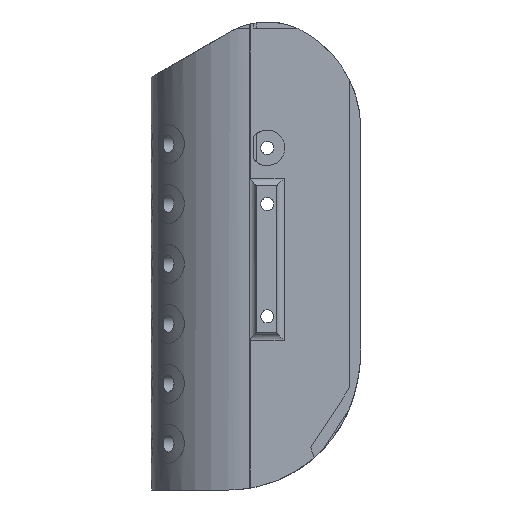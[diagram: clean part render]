
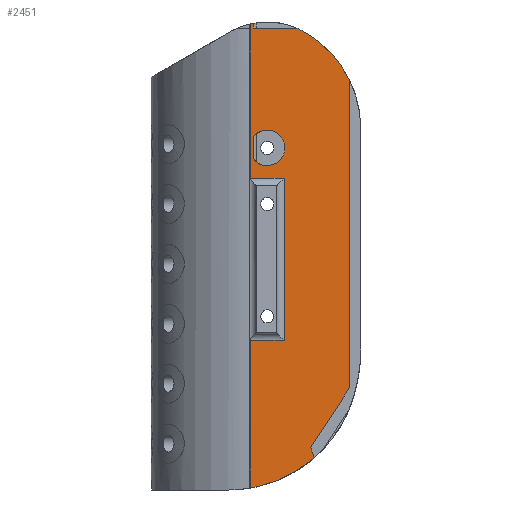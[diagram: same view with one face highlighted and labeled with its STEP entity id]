
A CAD part, left-side view. The second image highlights one B-rep face of the part: STEP entity #2451.
In plain terms, the highlighted planar face has unit normal (-1, 0, 0).
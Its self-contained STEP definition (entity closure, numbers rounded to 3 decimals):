
#27=PLANE('',#2619);
#89=FACE_BOUND('',#659,.T.);
#114=CIRCLE('',#2556,20.);
#116=CIRCLE('',#2558,20.);
#125=CIRCLE('',#2572,30.);
#144=CIRCLE('',#2606,4.74);
#176=LINE('',#5045,#290);
#189=LINE('',#5113,#303);
#191=LINE('',#5146,#305);
#196=LINE('',#5180,#310);
#199=LINE('',#5204,#313);
#201=LINE('',#5210,#315);
#202=LINE('',#5213,#316);
#209=LINE('',#5277,#323);
#210=LINE('',#5278,#324);
#211=LINE('',#5279,#325);
#290=VECTOR('',#2782,10.);
#303=VECTOR('',#2835,10.);
#305=VECTOR('',#2837,10.);
#310=VECTOR('',#2858,10.);
#313=VECTOR('',#2871,10.);
#315=VECTOR('',#2877,10.);
#316=VECTOR('',#2882,10.);
#323=VECTOR('',#2903,10.);
#324=VECTOR('',#2904,10.);
#325=VECTOR('',#2905,10.);
#499=FACE_OUTER_BOUND('',#658,.T.);
#658=EDGE_LOOP('',(#1914,#1915,#1916,#1917,#1918,#1919,#1920,#1921,#1922,
#1923,#1924,#1925,#1926,#1927,#1928));
#659=EDGE_LOOP('',(#1929,#1930));
#882=B_SPLINE_CURVE_WITH_KNOTS('',3,(#5232,#5233,#5234,#5235),
 .UNSPECIFIED.,.F.,.F.,(4,4),(0.469,0.621),
 .UNSPECIFIED.);
#883=B_SPLINE_CURVE_WITH_KNOTS('',3,(#5237,#5238,#5239,#5240,#5241,#5242,
#5243,#5244,#5245,#5246,#5247,#5248,#5249,#5250,#5251,#5252,#5253,#5254,
#5255,#5256,#5257,#5258,#5259,#5260,#5261,#5262,#5263,#5264,#5265,#5266,
#5267),.UNSPECIFIED.,.F.,.F.,(4,3,3,3,3,3,3,3,3,3,4),(1.785,
1.977,2.169,2.361,2.487,2.679,
2.871,3.033,3.225,3.417,3.554),
 .UNSPECIFIED.);
#884=B_SPLINE_CURVE_WITH_KNOTS('',3,(#5269,#5270,#5271,#5272,#5273,#5274,
#5275),.UNSPECIFIED.,.F.,.F.,(4,3,4),(3.342,3.456,
3.623),.UNSPECIFIED.);
#1049=VERTEX_POINT('',#4079);
#1050=VERTEX_POINT('',#4084);
#1053=VERTEX_POINT('',#4093);
#1054=VERTEX_POINT('',#4095);
#1110=VERTEX_POINT('',#5033);
#1114=VERTEX_POINT('',#5043);
#1133=VERTEX_POINT('',#5104);
#1134=VERTEX_POINT('',#5112);
#1137=VERTEX_POINT('',#5131);
#1144=VERTEX_POINT('',#5178);
#1145=VERTEX_POINT('',#5179);
#1149=VERTEX_POINT('',#5203);
#1151=VERTEX_POINT('',#5209);
#1156=VERTEX_POINT('',#5231);
#1157=VERTEX_POINT('',#5236);
#1158=VERTEX_POINT('',#5268);
#1159=VERTEX_POINT('',#5276);
#1339=EDGE_CURVE('',#1049,#1050,#114,.T.);
#1343=EDGE_CURVE('',#1053,#1054,#116,.T.);
#1403=EDGE_CURVE('',#1054,#1110,#125,.T.);
#1409=EDGE_CURVE('',#1114,#1053,#176,.T.);
#1437=EDGE_CURVE('',#1134,#1133,#189,.F.);
#1441=EDGE_CURVE('',#1137,#1049,#191,.T.);
#1451=EDGE_CURVE('',#1144,#1145,#196,.T.);
#1455=EDGE_CURVE('',#1145,#1144,#144,.T.);
#1458=EDGE_CURVE('',#1134,#1149,#199,.T.);
#1461=EDGE_CURVE('',#1149,#1151,#201,.T.);
#1463=EDGE_CURVE('',#1151,#1137,#202,.T.);
#1472=EDGE_CURVE('',#1133,#1156,#882,.F.);
#1473=EDGE_CURVE('',#1157,#1156,#883,.T.);
#1474=EDGE_CURVE('',#1157,#1158,#884,.T.);
#1475=EDGE_CURVE('',#1158,#1159,#209,.F.);
#1476=EDGE_CURVE('',#1159,#1110,#210,.F.);
#1477=EDGE_CURVE('',#1050,#1114,#211,.T.);
#1914=ORIENTED_EDGE('',*,*,#1339,.F.);
#1915=ORIENTED_EDGE('',*,*,#1441,.F.);
#1916=ORIENTED_EDGE('',*,*,#1463,.F.);
#1917=ORIENTED_EDGE('',*,*,#1461,.F.);
#1918=ORIENTED_EDGE('',*,*,#1458,.F.);
#1919=ORIENTED_EDGE('',*,*,#1437,.T.);
#1920=ORIENTED_EDGE('',*,*,#1472,.T.);
#1921=ORIENTED_EDGE('',*,*,#1473,.F.);
#1922=ORIENTED_EDGE('',*,*,#1474,.T.);
#1923=ORIENTED_EDGE('',*,*,#1475,.T.);
#1924=ORIENTED_EDGE('',*,*,#1476,.T.);
#1925=ORIENTED_EDGE('',*,*,#1403,.F.);
#1926=ORIENTED_EDGE('',*,*,#1343,.F.);
#1927=ORIENTED_EDGE('',*,*,#1409,.F.);
#1928=ORIENTED_EDGE('',*,*,#1477,.F.);
#1929=ORIENTED_EDGE('',*,*,#1455,.F.);
#1930=ORIENTED_EDGE('',*,*,#1451,.F.);
#2451=ADVANCED_FACE('',(#499,#89),#27,.F.);
#2556=AXIS2_PLACEMENT_3D('',#4085,#2731,#2732);
#2558=AXIS2_PLACEMENT_3D('',#4096,#2736,#2737);
#2572=AXIS2_PLACEMENT_3D('',#5034,#2771,#2772);
#2606=AXIS2_PLACEMENT_3D('',#5198,#2864,#2865);
#2619=AXIS2_PLACEMENT_3D('',#5230,#2901,#2902);
#2731=DIRECTION('center_axis',(1.,0.,0.));
#2732=DIRECTION('ref_axis',(0.,-0.001,1.));
#2736=DIRECTION('center_axis',(1.,0.,0.));
#2737=DIRECTION('ref_axis',(0.,-0.001,1.));
#2771=DIRECTION('center_axis',(1.,0.,0.));
#2772=DIRECTION('ref_axis',(0.,-0.707,0.707));
#2782=DIRECTION('',(0.,-1.,0.));
#2835=DIRECTION('',(0.,0.,1.));
#2837=DIRECTION('',(0.,0.,1.));
#2858=DIRECTION('',(0.,0.,-1.));
#2864=DIRECTION('center_axis',(-1.,0.,0.));
#2865=DIRECTION('ref_axis',(0.,1.,0.));
#2871=DIRECTION('',(0.,-1.,0.));
#2877=DIRECTION('',(0.,0.,1.));
#2882=DIRECTION('',(0.,1.,0.));
#2901=DIRECTION('center_axis',(1.,0.,0.));
#2902=DIRECTION('ref_axis',(0.,1.,0.));
#2903=DIRECTION('',(0.,0.546,-0.838));
#2904=DIRECTION('',(0.,0.,-1.));
#2905=DIRECTION('',(0.,0.,-1.));
#4079=CARTESIAN_POINT('',(-27.99,1.488,176.135));
#4084=CARTESIAN_POINT('',(-27.99,0.748,176.291));
#4085=CARTESIAN_POINT('Origin',(-27.99,-3.019,156.649));
#4093=CARTESIAN_POINT('',(-27.99,-10.949,175.01));
#4095=CARTESIAN_POINT('',(-27.99,-13.058,173.947));
#4096=CARTESIAN_POINT('Origin',(-27.99,-3.019,156.649));
#5033=CARTESIAN_POINT('',(-27.99,-25.01,161.056));
#5034=CARTESIAN_POINT('Origin',(-27.99,2.,148.));
#5043=CARTESIAN_POINT('',(-27.99,0.748,175.01));
#5045=CARTESIAN_POINT('',(-27.99,0.,175.01));
#5104=CARTESIAN_POINT('',(-27.99,1.488,52.115));
#5112=CARTESIAN_POINT('',(-27.99,1.488,91.572));
#5113=CARTESIAN_POINT('',(-27.99,1.488,0.));
#5131=CARTESIAN_POINT('',(-27.99,1.488,134.869));
#5146=CARTESIAN_POINT('',(-27.99,1.488,0.));
#5178=CARTESIAN_POINT('',(-27.99,0.748,145.901));
#5179=CARTESIAN_POINT('',(-27.99,0.748,140.099));
#5180=CARTESIAN_POINT('',(-27.99,0.748,0.));
#5198=CARTESIAN_POINT('Origin',(-27.99,-3.,143.));
#5203=CARTESIAN_POINT('',(-27.99,-7.541,91.572));
#5204=CARTESIAN_POINT('',(-27.99,-9.77,91.572));
#5209=CARTESIAN_POINT('',(-27.99,-7.541,134.869));
#5210=CARTESIAN_POINT('',(-27.99,-7.541,119.684));
#5213=CARTESIAN_POINT('',(-27.99,-7.,134.869));
#5230=CARTESIAN_POINT('Origin',(-27.99,-14.,106.5));
#5231=CARTESIAN_POINT('',(-27.99,0.,52.405));
#5232=CARTESIAN_POINT('Ctrl Pts',(-27.99,0.,
52.407));
#5233=CARTESIAN_POINT('Ctrl Pts',(-27.99,0.493,52.299));
#5234=CARTESIAN_POINT('Ctrl Pts',(-27.99,0.989,52.203));
#5235=CARTESIAN_POINT('Ctrl Pts',(-27.99,1.487,52.117));
#5236=CARTESIAN_POINT('',(-27.99,-15.601,60.264));
#5237=CARTESIAN_POINT('Ctrl Pts',(-27.99,-15.601,60.264));
#5238=CARTESIAN_POINT('Ctrl Pts',(-27.99,-15.12,59.844));
#5239=CARTESIAN_POINT('Ctrl Pts',(-27.99,-14.628,59.437));
#5240=CARTESIAN_POINT('Ctrl Pts',(-27.99,-14.125,59.044));
#5241=CARTESIAN_POINT('Ctrl Pts',(-27.99,-13.622,58.65));
#5242=CARTESIAN_POINT('Ctrl Pts',(-27.99,-13.108,58.271));
#5243=CARTESIAN_POINT('Ctrl Pts',(-27.99,-12.583,57.905));
#5244=CARTESIAN_POINT('Ctrl Pts',(-27.99,-12.061,57.541));
#5245=CARTESIAN_POINT('Ctrl Pts',(-27.99,-11.529,57.19));
#5246=CARTESIAN_POINT('Ctrl Pts',(-27.99,-10.987,56.855));
#5247=CARTESIAN_POINT('Ctrl Pts',(-27.99,-10.631,56.634));
#5248=CARTESIAN_POINT('Ctrl Pts',(-27.99,-10.27,56.419));
#5249=CARTESIAN_POINT('Ctrl Pts',(-27.99,-9.906,56.211));
#5250=CARTESIAN_POINT('Ctrl Pts',(-27.99,-9.351,55.894));
#5251=CARTESIAN_POINT('Ctrl Pts',(-27.99,-8.787,55.592));
#5252=CARTESIAN_POINT('Ctrl Pts',(-27.99,-8.216,55.306));
#5253=CARTESIAN_POINT('Ctrl Pts',(-27.99,-7.645,55.02));
#5254=CARTESIAN_POINT('Ctrl Pts',(-27.99,-7.065,54.749));
#5255=CARTESIAN_POINT('Ctrl Pts',(-27.99,-6.479,54.494));
#5256=CARTESIAN_POINT('Ctrl Pts',(-27.99,-5.986,54.28));
#5257=CARTESIAN_POINT('Ctrl Pts',(-27.99,-5.487,54.077));
#5258=CARTESIAN_POINT('Ctrl Pts',(-27.99,-4.984,53.886));
#5259=CARTESIAN_POINT('Ctrl Pts',(-27.99,-4.388,53.659));
#5260=CARTESIAN_POINT('Ctrl Pts',(-27.99,-3.786,53.449));
#5261=CARTESIAN_POINT('Ctrl Pts',(-27.99,-3.178,53.256));
#5262=CARTESIAN_POINT('Ctrl Pts',(-27.99,-2.57,53.062));
#5263=CARTESIAN_POINT('Ctrl Pts',(-27.99,-1.956,52.886));
#5264=CARTESIAN_POINT('Ctrl Pts',(-27.99,-1.338,52.725));
#5265=CARTESIAN_POINT('Ctrl Pts',(-27.99,-0.895,
52.611));
#5266=CARTESIAN_POINT('Ctrl Pts',(-27.99,-0.449,
52.504));
#5267=CARTESIAN_POINT('Ctrl Pts',(-27.99,0.,
52.407));
#5268=CARTESIAN_POINT('',(-27.99,-14.585,62.877));
#5269=CARTESIAN_POINT('Ctrl Pts',(-27.99,-15.601,60.264));
#5270=CARTESIAN_POINT('Ctrl Pts',(-27.99,-15.463,60.616));
#5271=CARTESIAN_POINT('Ctrl Pts',(-27.99,-15.326,60.969));
#5272=CARTESIAN_POINT('Ctrl Pts',(-27.99,-15.188,61.321));
#5273=CARTESIAN_POINT('Ctrl Pts',(-27.99,-14.987,61.84));
#5274=CARTESIAN_POINT('Ctrl Pts',(-27.99,-14.785,62.358));
#5275=CARTESIAN_POINT('Ctrl Pts',(-27.99,-14.585,62.877));
#5276=CARTESIAN_POINT('',(-27.99,-25.01,78.888));
#5277=CARTESIAN_POINT('',(-27.99,-15.926,64.938));
#5278=CARTESIAN_POINT('',(-27.99,-25.01,92.25));
#5279=CARTESIAN_POINT('',(-27.99,0.748,0.));
